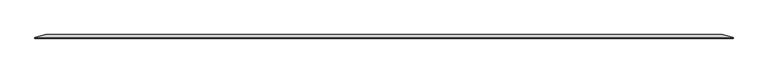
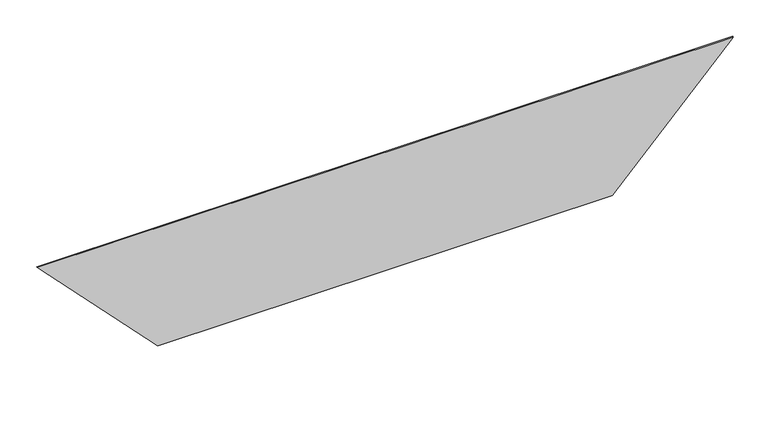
"""IFC4 building model written with IfcOpenShell, lengths in millimetres: proxy geometry, AERO^TABLE 3_ATS2S-4896-REV2-NOPOWER^ SHRD SIDE05."""

from ifc_helpers import new_model, si_unit, origin, place, context, project, spatial, faceted_brep, source, transform, mapped, element, save


def generic_models_f31e0123(model_context):
    return source(origin(), model_context, "Body", "Brep", [
        faceted_brep([(-606.425, 0.0, -0.8217505), (-606.425, 3.0668145, 0.0), (-569.2052293, 12.7, -35.9515377), (-183.9983492, 12.7, -434.7470453), (-183.9983492, 0.0, -438.15), (1825.625, 0.0, -0.8217505), (1403.1983492, 0.0, -438.15), (1825.625, 3.0668145, 0.0), (1403.1983492, 12.7, -434.7470453), (1788.4052293, 12.7, -35.9515377)], [[[0, 1, 2, 3, 4]], [[5, 0, 4, 6]], [[0, 5, 7, 1]], [[7, 5, 6, 8, 9]], [[3, 8, 6, 4]], [[2, 9, 8, 3]], [[1, 7, 9, 2]]]),
    ])


if __name__ == "__main__":
    model = new_model("IFC4")
    model_context = context("Model", 3, world=origin())
    ifc_project = project(units=[si_unit("LENGTHUNIT", "METRE", prefix="MILLI")], contexts=[model_context])
    site = spatial("IfcSite", under=ifc_project)
    building = spatial("IfcBuilding", under=site)
    placement = place(None, origin())
    generic_models_shape = generic_models_f31e0123(model_context)
    element("IfcBuildingElementProxy", 1, Name="AERO^TABLE 3_ATS2S-4896-REV2-NOPOWER^ SHRD SIDE05", ObjectType="AERO^TABLE 3_ATS2S-4896-REV2-NOPOWER^ SHRD SIDE05", at=placement, inside=building, context=model_context, shape_type="MappedRepresentation", body=[
        mapped(generic_models_shape, transform((0.0, 0.0, 0.0), x_axis=(1.0, 0.0, 0.0), y_axis=(0.0, 1.0, 0.0), z_axis=(0.0, 0.0, 1.0))),
    ])
    save(model, "model.ifc")
